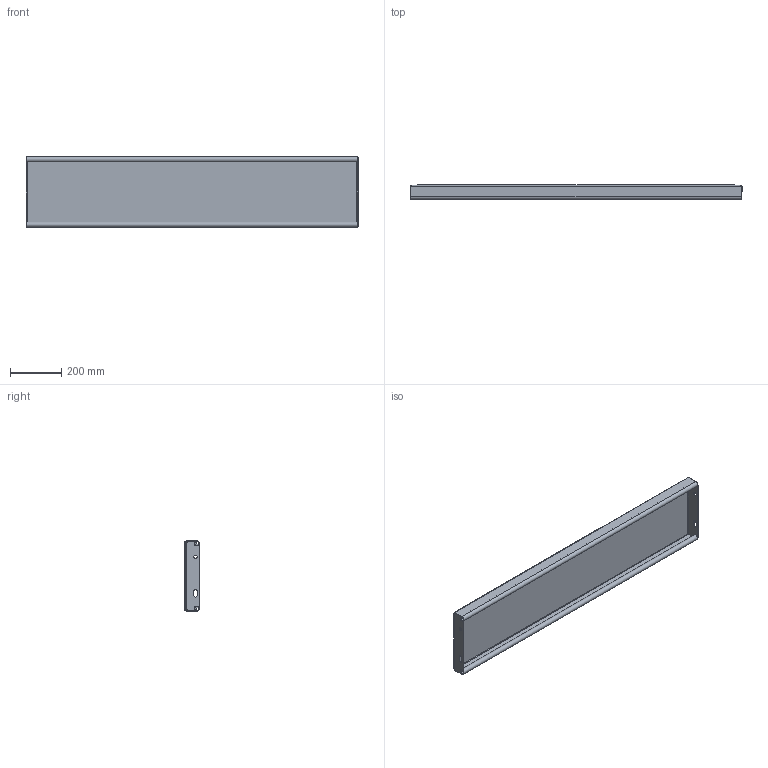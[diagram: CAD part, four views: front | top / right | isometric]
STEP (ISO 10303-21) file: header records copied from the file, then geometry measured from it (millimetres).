
FILE_DESCRIPTION (( 'STEP AP214' ), '1' );
FILE_NAME ('OPTIMO-Tread-Achil-O2-1300x275x57x2-st240-F100480100_plain.STEP', '2021-03-17T14:06:45', ( '' ), ( '' ), 'SwSTEP 2.0', 'SolidWorks 2021', '' );
FILE_SCHEMA (( 'AUTOMOTIVE_DESIGN' ));
Length unit declared in the file: millimetre
Products named in the file (1): OPTIMO-Tread-Achil-O2-1300x275x57x2-st240-F100480100_plain
Bounding box: 1300 x 57 x 275 mm (x, y, z)
Volume: 2223843.1 mm3; surface area: 1247795.1 mm2
Topology: 1 solids, 1 shells, 248 faces, 640 edges, 412 vertices
Faces by surface type: plane 173, bspline 39, cylinder 36
Entity records: 9924 total; most frequent: CARTESIAN_POINT 4092, ORIENTED_EDGE 1280, DIRECTION 1022, EDGE_CURVE 640, LINE 490, VECTOR 490, VERTEX_POINT 412, EDGE_LOOP 274
